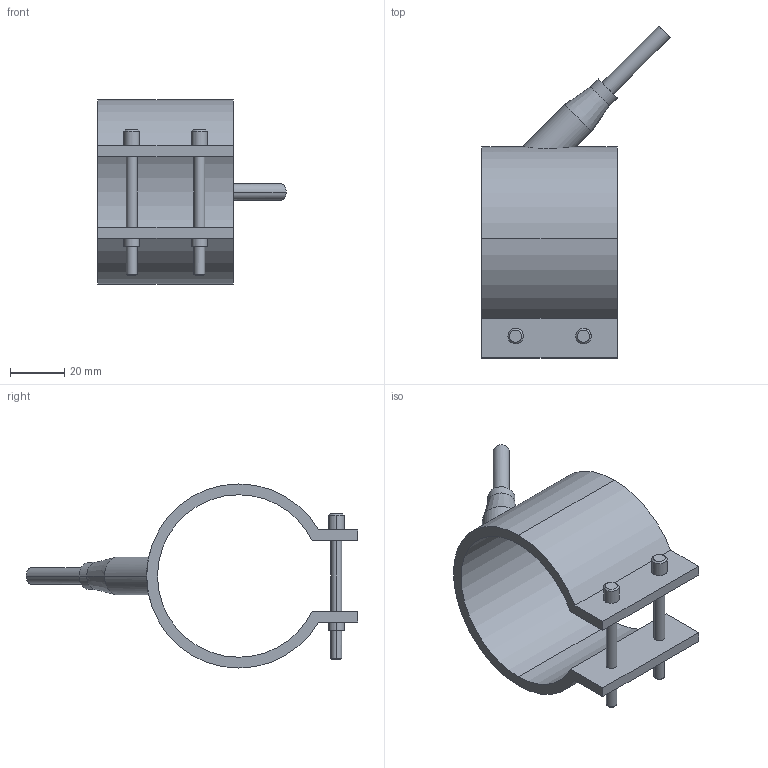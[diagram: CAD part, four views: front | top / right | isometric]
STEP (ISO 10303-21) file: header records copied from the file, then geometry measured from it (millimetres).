
FILE_DESCRIPTION(('CATIA V5 STEP Exchange'),'2;1');
FILE_NAME('C:\Users\Utente\Desktop\IO LAVORO\3D X SITO CF\X SITO\PLASTICA\RF1\29060050.stp','2021-03-27T09:52:53+00:00',('none'),('none'),'CATIA Version 5 Release 20 GA (IN-10)','CATIA V5 STEP AP203','none');
FILE_SCHEMA(('CONFIG_CONTROL_DESIGN'));
Length unit declared in the file: millimetre
Products named in the file (1): 29060050
Bounding box: 69.55 x 122.55 x 68 mm (x, y, z)
Volume: 46440.8 mm3; surface area: 24984.2 mm2
Topology: 1 solids, 1 shells, 54 faces, 126 edges, 82 vertices
Faces by surface type: cylinder 28, plane 16, cone 10
Entity records: 1762 total; most frequent: CARTESIAN_POINT 519, ORIENTED_EDGE 252, DIRECTION 211, EDGE_CURVE 126, AXIS2_PLACEMENT_3D 104, VERTEX_POINT 82, EDGE_LOOP 66, VECTOR 56
